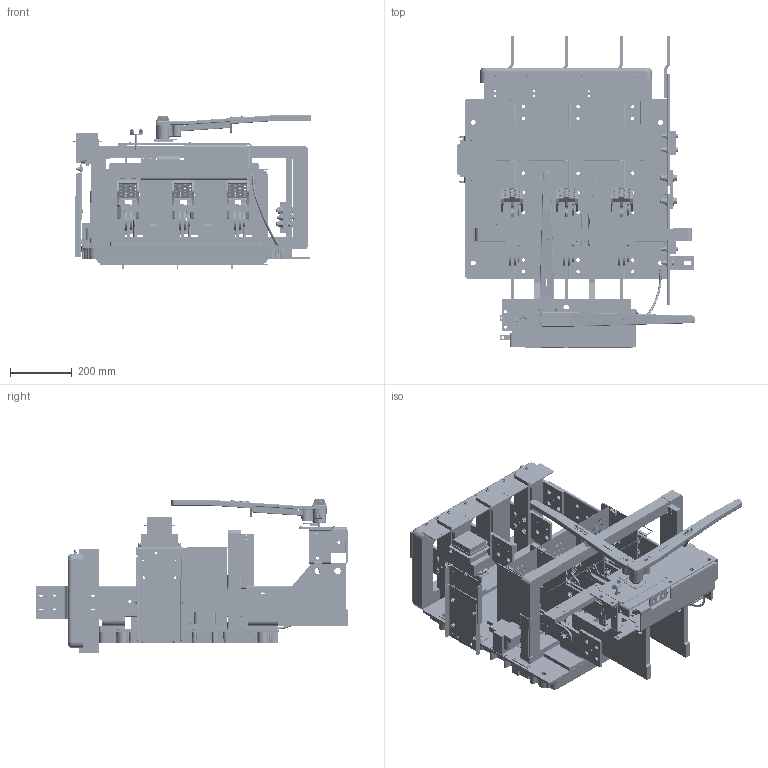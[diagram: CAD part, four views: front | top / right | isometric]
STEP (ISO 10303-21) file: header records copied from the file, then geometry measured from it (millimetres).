
FILE_DESCRIPTION(/* description */ (''),/* implementation_level */ '2;1');
FILE_NAME(/* name */ 'H:\switches\3d-templates\catalog-switches-iges-files\CATALOG-VLB348AG60.stp',/* time_stamp */ '2022-03-16T09:42:51-05:00',/* author */ ('MKingston'),/* organization */ (''),/* preprocessor_version */ 'ST-DEVELOPER v18.1',/* originating_system */ 'Autodesk Inventor 2022',/* authorisation */ '');
FILE_SCHEMA (('AUTOMOTIVE_DESIGN { 1 0 10303 214 3 1 1 }'));
Products named in the file (97): vlb348; 277-bf; 668-DB; 668-EB; 668-CB; catalog-368-blade-assy; 67-AL; 67-AR; 67-fc3; 67-gc3; 235-b; catalog-56-qj-arcchute-assy; 363-da; 363-da_MIR; 50-QLX; 50-QRX; 56-QJS; 57-QJSB; 57-QJST; vlb-interpole-right-side-assy; vlb-interpole-assy; 256-b; 178-b; 178-c; 256-d; 256-c; 230-a; 246-f; 221-kpa; 452; 481-a; bf-gfr-1-mounting-assembly; 277-L1B; 277-l2; 277-l3; 277-l4; gfr-1; Bolted Connection; ANSI B18.6.3 - 10 - 32 x 3/4 SR HMS; ANSI B18.22.1 - No. 10 - Type A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
Assembly tree (197 placements, depth 4):
  vlb348
    277-bf
    668-DB  x3
    668-EB  x3
    668-CB  x3
    catalog-368-blade-assy  x3
      67-AL
      67-AR
      67-fc3
      67-gc3
    235-b
    catalog-56-qj-arcchute-assy  x3
      363-da
      363-da_MIR
      50-QLX
      50-QRX
      56-QJS
      57-QJSB
      57-QJST
    vlb-interpole-right-side-assy  x2
      256-b
      178-b
      178-c
    vlb-interpole-assy  x2
      256-b
      178-b
      178-c
    256-d
    256-c
    230-a
    246-f  x2
    221-kpa
    452
    481-a
    bf-gfr-1-mounting-assembly
      277-L1B
      277-l2
      277-l3
      277-l4
      gfr-1
      Bolted Connection
        ANSI B18.22.1 - No. 10 - Type A  x4
        ASME B18.21.1 - No. 10. Carbon Steel, ETLWTB(1)  x4
        ANSI B18.6.3 - 10 - 32 x 3/4 SR HMS  x2
        ANSI B18.2.2 - 10 - 32, HMSNI  x2
      Bolted Connection_1
        ANSI B18.5 - 1/4-20 UNC - 0.75, RHBI  x6
        ASTM F436 - 1/4, CW  x6
        ASME B18.21.1 - 1/4. Carbon Steel, HITLWTB(1)  x6
        ANSI B18.2.2 - 1/4 - 20, HNI  x6
    gfi-ring-assembly
      GFS10X24
      277-ma
    transformer
    800-bck2
    800-fck-1
    1600-VLB-NEUTRAL
      677-c
      676-t  x2
      675-ca
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Bounding box: 775.46 x 1013.88 x 498.56 mm (x, y, z)
Volume: 30999443.1 mm3; surface area: 5954179 mm2
Topology: 241 solids, 243 shells, 7795 faces, 19915 edges, 12905 vertices
Faces by surface type: plane 4057, cylinder 2254, cone 877, bspline 466, torus 131, sphere 10
Full cylindrical faces by diameter (mm): 1.702 x8, 3.175 x4, 3.302 x2, 3.581 x2, 3.683 x8, 3.759 x12, 3.81 x9, 3.962 x11, 4.089 x4, 4.166 x2, 4.191 x9, 4.293 x9, 4.305 x42, 4.366 x2, 4.496 x24, 4.572 x9, 4.653 x4, 4.762 x4, 4.775 x8, 4.801 x8, 4.826 x2, 4.902 x8, 4.915 x24, 4.953 x4, 4.978 x9, 5.08 x2, 5.462 x4, 5.537 x5, 5.556 x5, 5.563 x4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
Entity records: 142101 total; most frequent: CARTESIAN_POINT 35372, DIRECTION 21432, ORIENTED_EDGE 21244, EDGE_CURVE 10633, AXIS2_PLACEMENT_3D 7588, VERTEX_POINT 6895, LINE 6256, VECTOR 6256
